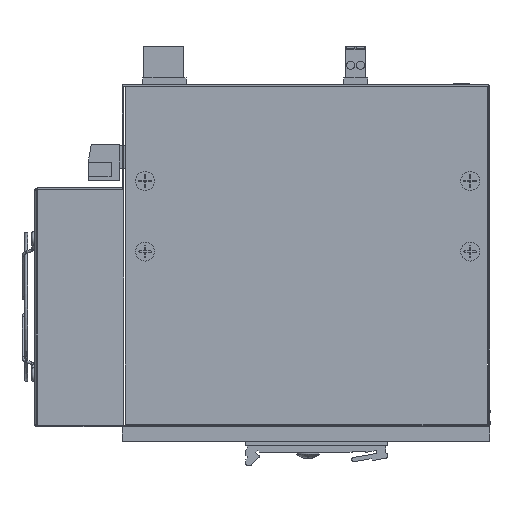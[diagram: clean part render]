
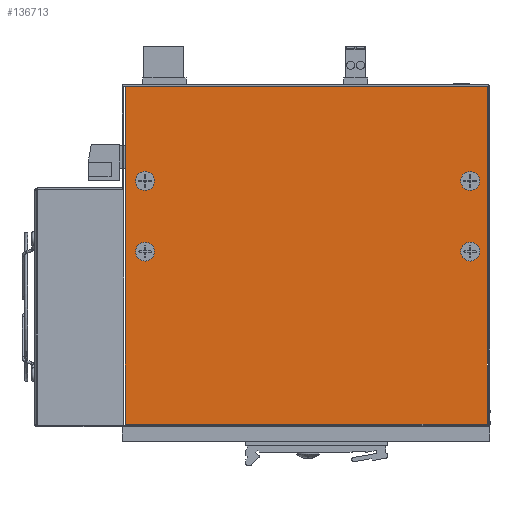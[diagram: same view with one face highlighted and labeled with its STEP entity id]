
A CAD part, left-side view. The second image highlights one B-rep face of the part: STEP entity #136713.
In plain terms, the highlighted planar face has unit normal (-1, 0, 0).
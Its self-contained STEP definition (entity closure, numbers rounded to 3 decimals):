
#6025=FACE_BOUND('',#22536,.T.);
#6026=FACE_BOUND('',#22537,.T.);
#6027=FACE_BOUND('',#22538,.T.);
#6028=FACE_BOUND('',#22539,.T.);
#9398=PLANE('',#144694);
#14763=FACE_OUTER_BOUND('',#22535,.T.);
#22535=EDGE_LOOP('',(#101862,#101863,#101864,#101865));
#22536=EDGE_LOOP('',(#101866));
#22537=EDGE_LOOP('',(#101867));
#22538=EDGE_LOOP('',(#101868));
#22539=EDGE_LOOP('',(#101869));
#34533=LINE('',#189595,#49656);
#34580=LINE('',#189699,#49703);
#34584=LINE('',#189709,#49707);
#34588=LINE('',#189719,#49711);
#49656=VECTOR('',#158935,10.);
#49703=VECTOR('',#159048,10.);
#49707=VECTOR('',#159058,0.72);
#49711=VECTOR('',#159074,10.);
#58979=CIRCLE('',#142367,3.35);
#58991=CIRCLE('',#142396,3.35);
#59003=CIRCLE('',#142425,3.35);
#59015=CIRCLE('',#142454,3.35);
#59641=VERTEX_POINT('',#175979);
#59669=VERTEX_POINT('',#176064);
#59697=VERTEX_POINT('',#176149);
#59725=VERTEX_POINT('',#176234);
#63640=VERTEX_POINT('',#189593);
#63641=VERTEX_POINT('',#189594);
#63665=VERTEX_POINT('',#189698);
#63668=VERTEX_POINT('',#189707);
#72634=EDGE_CURVE('',#59641,#59641,#58979,.T.);
#72674=EDGE_CURVE('',#59669,#59669,#58991,.T.);
#72714=EDGE_CURVE('',#59697,#59697,#59003,.T.);
#72754=EDGE_CURVE('',#59725,#59725,#59015,.T.);
#78593=EDGE_CURVE('',#63640,#63641,#34533,.T.);
#78647=EDGE_CURVE('',#63640,#63665,#34580,.T.);
#78653=EDGE_CURVE('',#63668,#63665,#34584,.T.);
#78659=EDGE_CURVE('',#63641,#63668,#34588,.T.);
#101862=ORIENTED_EDGE('',*,*,#78647,.T.);
#101863=ORIENTED_EDGE('',*,*,#78653,.F.);
#101864=ORIENTED_EDGE('',*,*,#78659,.F.);
#101865=ORIENTED_EDGE('',*,*,#78593,.F.);
#101866=ORIENTED_EDGE('',*,*,#72634,.T.);
#101867=ORIENTED_EDGE('',*,*,#72674,.T.);
#101868=ORIENTED_EDGE('',*,*,#72714,.T.);
#101869=ORIENTED_EDGE('',*,*,#72754,.T.);
#136713=ADVANCED_FACE('',(#14763,#6025,#6026,#6027,#6028),#9398,.F.);
#142367=AXIS2_PLACEMENT_3D('',#175980,#148667,#148668);
#142396=AXIS2_PLACEMENT_3D('',#176065,#148753,#148754);
#142425=AXIS2_PLACEMENT_3D('',#176150,#148839,#148840);
#142454=AXIS2_PLACEMENT_3D('',#176235,#148925,#148926);
#144694=AXIS2_PLACEMENT_3D('',#189720,#159075,#159076);
#148667=DIRECTION('center_axis',(1.,0.,0.));
#148668=DIRECTION('ref_axis',(0.,0.,1.));
#148753=DIRECTION('center_axis',(1.,0.,0.));
#148754=DIRECTION('ref_axis',(0.,0.,1.));
#148839=DIRECTION('center_axis',(1.,0.,0.));
#148840=DIRECTION('ref_axis',(0.,0.,1.));
#148925=DIRECTION('center_axis',(1.,0.,0.));
#148926=DIRECTION('ref_axis',(0.,0.,1.));
#158935=DIRECTION('',(0.,0.,1.));
#159048=DIRECTION('',(0.,-1.,0.));
#159058=DIRECTION('',(0.,0.,-1.));
#159074=DIRECTION('',(0.,-1.,0.));
#159075=DIRECTION('center_axis',(1.,0.,0.));
#159076=DIRECTION('ref_axis',(0.,0.,
	-1.));
#175979=CARTESIAN_POINT('',(-125.,-58.,58.65));
#175980=CARTESIAN_POINT('Origin',(-125.,-58.,62.));
#176064=CARTESIAN_POINT('',(-125.,57.,58.65));
#176065=CARTESIAN_POINT('Origin',(-125.,57.,62.));
#176149=CARTESIAN_POINT('',(-125.,-58.,83.65));
#176150=CARTESIAN_POINT('Origin',(-125.,-58.,87.));
#176234=CARTESIAN_POINT('',(-125.,57.,83.65));
#176235=CARTESIAN_POINT('Origin',(-125.,57.,87.));
#189593=CARTESIAN_POINT('',(-125.,64.,1.));
#189594=CARTESIAN_POINT('',(-125.,64.,120.4));
#189595=CARTESIAN_POINT('',(-125.,64.,1.));
#189698=CARTESIAN_POINT('',(-125.,-64.,1.));
#189699=CARTESIAN_POINT('',(-125.,0.,1.));
#189707=CARTESIAN_POINT('',(-125.,-64.,120.4));
#189709=CARTESIAN_POINT('',(-125.,-64.,-1.262));
#189719=CARTESIAN_POINT('',(-125.,64.,120.4));
#189720=CARTESIAN_POINT('Origin',(-125.,0.,60.135));
